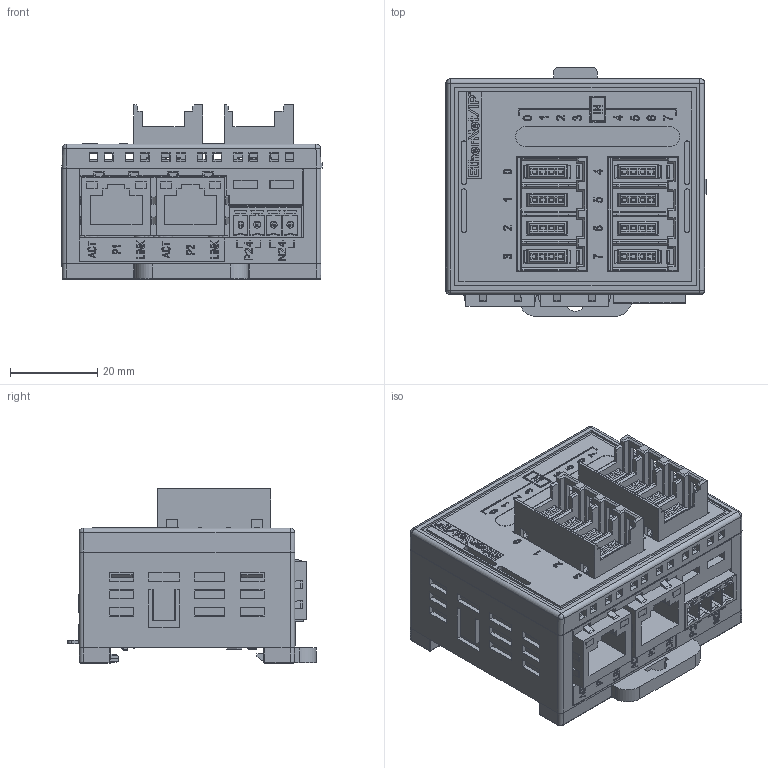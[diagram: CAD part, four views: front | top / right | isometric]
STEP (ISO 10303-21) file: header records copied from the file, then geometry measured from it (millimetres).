
FILE_DESCRIPTION((''),'2;1');
FILE_NAME('EICEP80','2026-05-11T14:12:59',('gijyu181'),(''),'CREO PARAMETRIC BY PTC INC, 2018050','CREO PARAMETRIC BY PTC INC, 2018050','');
FILE_SCHEMA(('CONFIG_CONTROL_DESIGN','SHAPE_APPEARANCE_LAYERS_GROUPS'));
Products named in the file (1): EICEP80
Bounding box: 59.75 x 57.15 x 40 mm (x, y, z)
Volume: 70224.1 mm3; surface area: 41261.1 mm2
Topology: 2 solids, 16 shells, 7420 faces, 21047 edges, 13927 vertices
Faces by surface type: plane 5738, cylinder 898, extrusion 670, sphere 44, torus 26, bspline 24, cone 20
Entity records: 300924 total; most frequent: CARTESIAN_POINT 51259, ORIENTED_EDGE 42066, DIRECTION 35318, EDGE_CURVE 21037, VECTOR 18080, LINE 17410, VERTEX_POINT 13927, PRESENTATION_STYLE_ASSIGNMENT 10938
